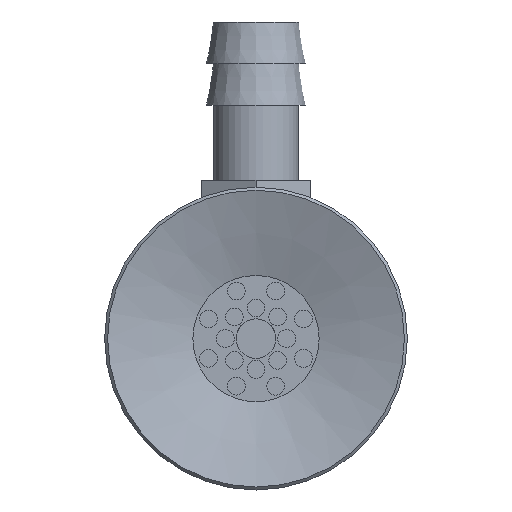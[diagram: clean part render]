
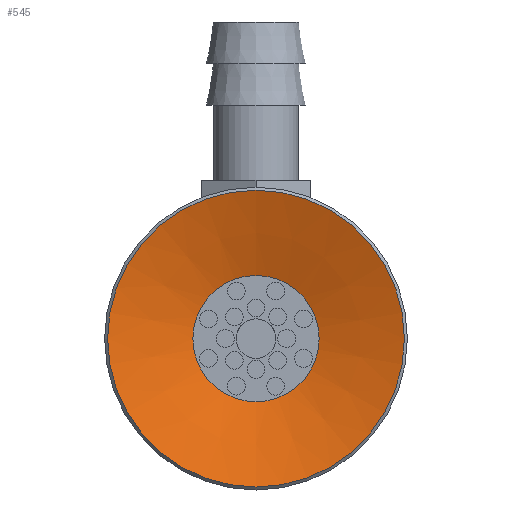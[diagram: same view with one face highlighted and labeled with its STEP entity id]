
A CAD part, front view. The second image highlights one B-rep face of the part: STEP entity #545.
In plain terms, the highlighted conical face has half-angle 72 degrees and reference radius 7.5 mm.
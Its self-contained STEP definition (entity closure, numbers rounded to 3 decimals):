
#545=ADVANCED_FACE('',(#848,#849),#850,.F.);
#848=FACE_BOUND('',#1258,.T.);
#849=FACE_OUTER_BOUND('',#1259,.T.);
#850=CONICAL_SURFACE('',#1260,7.5,1.257);
#1258=EDGE_LOOP('',(#2039));
#1259=EDGE_LOOP('',(#2040));
#1260=AXIS2_PLACEMENT_3D('',#2041,#2042,#2043);
#2039=ORIENTED_EDGE('',*,*,#2547,.T.);
#2040=ORIENTED_EDGE('',*,*,#2548,.F.);
#2041=CARTESIAN_POINT('',(0.0,0.,0.));
#2042=DIRECTION('',(0.0,0.,-1.0));
#2043=DIRECTION('',(0.0,1.0,0.));
#2547=EDGE_CURVE('',#2911,#2911,#2912,.T.);
#2548=EDGE_CURVE('',#2913,#2913,#2914,.T.);
#2911=VERTEX_POINT('',#3717);
#2912=CIRCLE('',#3718,3.191);
#2913=VERTEX_POINT('',#3719);
#2914=CIRCLE('',#3720,7.5);
#3717=CARTESIAN_POINT('',(0.0,-3.191,1.4));
#3718=AXIS2_PLACEMENT_3D('',#4138,#4139,#4140);
#3719=CARTESIAN_POINT('',(0.0,-7.5,0.));
#3720=AXIS2_PLACEMENT_3D('',#4141,#4142,#4143);
#4138=CARTESIAN_POINT('',(0.0,0.,1.4));
#4139=DIRECTION('',(0.0,0.,1.0));
#4140=DIRECTION('',(0.0,-1.0,0.));
#4141=CARTESIAN_POINT('',(0.0,0.,0.));
#4142=DIRECTION('',(0.0,0.,1.0));
#4143=DIRECTION('',(0.0,-1.0,0.));
